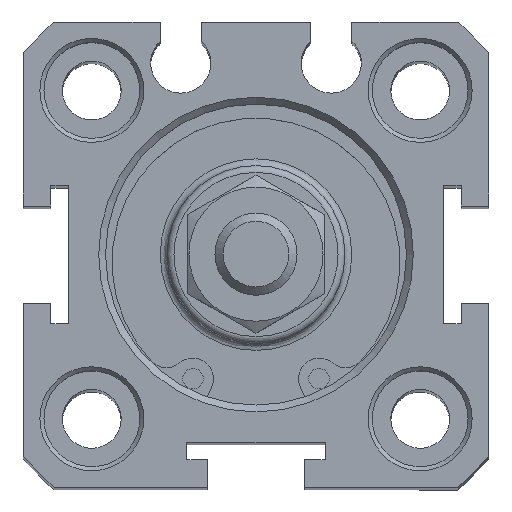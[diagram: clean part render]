
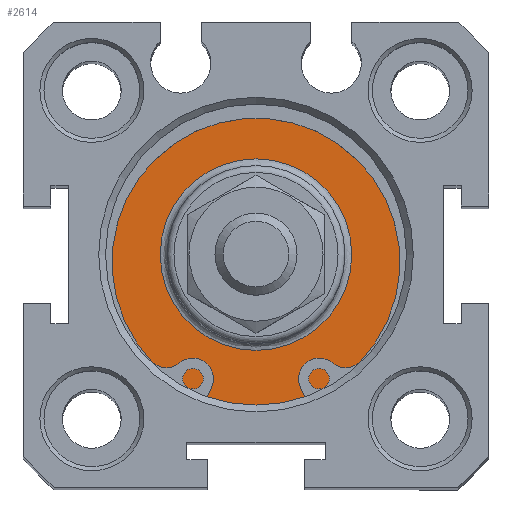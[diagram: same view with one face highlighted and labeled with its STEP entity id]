
A CAD part, top view. The second image highlights one B-rep face of the part: STEP entity #2614.
In plain terms, the highlighted planar face has unit normal (0, 0, 1).
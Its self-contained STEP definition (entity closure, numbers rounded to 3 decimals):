
#2552=CARTESIAN_POINT('',(0.957,6.522,116.8));
#2553=VERTEX_POINT('',#2552);
#2554=CARTESIAN_POINT('',(0.957,-0.478,116.8));
#2555=DIRECTION('',(0.0,0.0,1.0));
#2556=DIRECTION('',(0.0,-1.0,0.0));
#2557=AXIS2_PLACEMENT_3D('',#2554,#2555,#2556);
#2558=CIRCLE('',#2557,7.);
#2559=EDGE_CURVE('',#2553,#2553,#2558,.T.);
#2595=CARTESIAN_POINT('',(0.957,8.272,116.8));
#2596=DIRECTION('',(0.0,0.0,1.0));
#2597=DIRECTION('',(1.0,0.0,0.0));
#2598=AXIS2_PLACEMENT_3D('',#2595,#2596,#2597);
#2599=PLANE('',#2598);
#2600=CARTESIAN_POINT('',(0.957,10.522,116.8));
#2601=VERTEX_POINT('',#2600);
#2602=CARTESIAN_POINT('',(0.957,-0.478,116.8));
#2603=DIRECTION('',(0.0,0.0,1.0));
#2604=DIRECTION('',(0.0,1.0,0.0));
#2605=AXIS2_PLACEMENT_3D('',#2602,#2603,#2604);
#2606=CIRCLE('',#2605,11.);
#2607=EDGE_CURVE('',#2601,#2601,#2606,.T.);
#2608=ORIENTED_EDGE('',*,*,#2607,.T.);
#2609=EDGE_LOOP('',(#2608));
#2610=FACE_OUTER_BOUND('',#2609,.T.);
#2611=ORIENTED_EDGE('',*,*,#2559,.F.);
#2612=EDGE_LOOP('',(#2611));
#2613=FACE_BOUND('',#2612,.T.);
#2614=ADVANCED_FACE('',(#2610,#2613),#2599,.T.);
